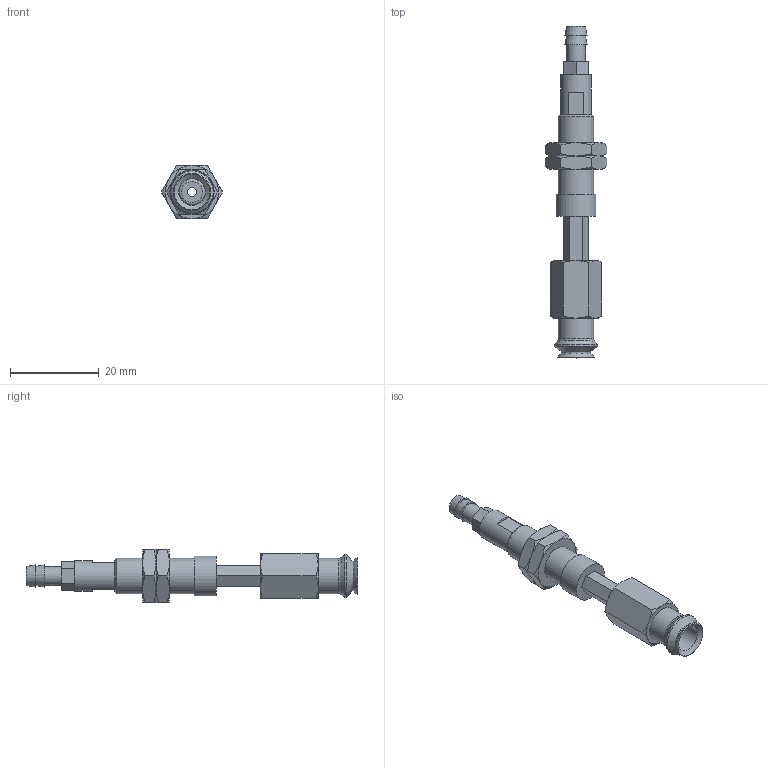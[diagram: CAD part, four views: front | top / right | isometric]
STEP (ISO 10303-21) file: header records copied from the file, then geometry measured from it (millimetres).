
FILE_DESCRIPTION(('STEP AP203'),'1');
FILE_NAME('-T.stp','2025-08-27T06:28:04',(' '),(' '),'Spatial InterOp 3D',' ',' ');
FILE_SCHEMA(('CONFIG_CONTROL_DESIGN'));
Length unit declared in the file: millimetre
Products named in the file (7): BNABPJTH-8-10-※-T; ADAPTER; NAPATH-10A-10--M; NAPJH-8-10-NUT; NAPJTH-8-10-FBODY; BPJG-8-※; T
Assembly tree (7 placements, depth 2):
  BNABPJTH-8-10-※-T
    ADAPTER
    NAPATH-10A-10--M
    NAPJH-8-10-NUT  x2
    NAPJTH-8-10-FBODY
    BPJG-8-※
    T
Bounding box: 13.86 x 75 x 12 mm (x, y, z)
Volume: 3628.8 mm3; surface area: 4536 mm2
Topology: 7 solids, 7 shells, 138 faces, 295 edges, 180 vertices
Faces by surface type: plane 63, cone 50, cylinder 16, torus 9
Full cylindrical faces by diameter (mm): 2 x2, 3 x1, 4 x2, 4.134 x1, 4.3 x1, 5 x1, 6 x2, 7 x1, 7.188 x2, 8 x2, 9 x1
Entity records: 3402 total; most frequent: CARTESIAN_POINT 759, DIRECTION 480, ORIENTED_EDGE 406, EDGE_CURVE 203, AXIS2_PLACEMENT_3D 202, EDGE_LOOP 172, VERTEX_POINT 145, FACE_OUTER_BOUND 139
